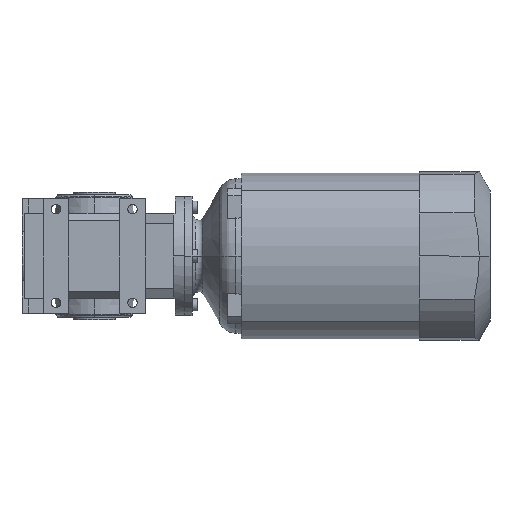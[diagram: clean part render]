
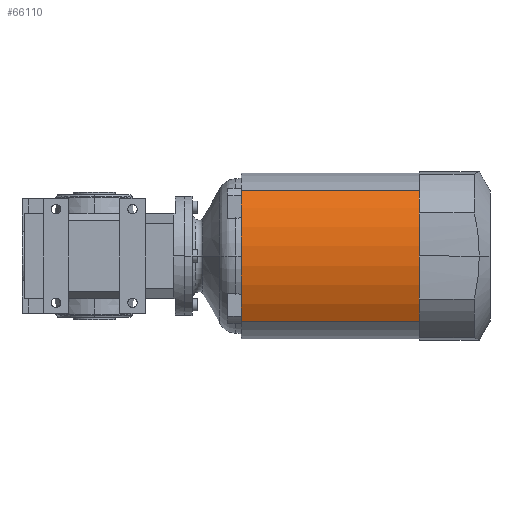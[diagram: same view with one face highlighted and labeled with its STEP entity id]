
A CAD part, front view. The second image highlights one B-rep face of the part: STEP entity #66110.
In plain terms, the highlighted cylindrical face has radius 152 mm (diameter 304 mm), a partial arc.
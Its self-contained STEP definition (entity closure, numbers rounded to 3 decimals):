
#65700=CARTESIAN_POINT('',(179.5,0.,54.));
#65710=DIRECTION('',(-1.,0.,0.));
#65720=DIRECTION('',(0.,0.,1.));
#65730=AXIS2_PLACEMENT_3D('',#65700,#65710,#65720);
#65740=CYLINDRICAL_SURFACE('',#65730,152.);
#65750=CARTESIAN_POINT('',(204.5,0.,54.));
#65760=DIRECTION('',(-1.,0.,0.));
#65770=DIRECTION('',(0.,0.,1.));
#65780=AXIS2_PLACEMENT_3D('',#65750,#65760,#65770);
#65790=CIRCLE('',#65780,152.);
#65800=CARTESIAN_POINT('',(204.5,77.034,-77.034));
#65810=VERTEX_POINT('',#65800);
#65820=CARTESIAN_POINT('',(204.5,-77.034,-77.034));
#65830=VERTEX_POINT('',#65820);
#65840=EDGE_CURVE('',#65810,#65830,#65790,.T.);
#65850=ORIENTED_EDGE('',*,*,#65840,.T.);
#65860=CARTESIAN_POINT('',(179.,77.034,-77.034));
#65870=DIRECTION('',(1.,0.,0.));
#65880=VECTOR('',#65870,1.);
#65890=LINE('',#65860,#65880);
#65900=CARTESIAN_POINT('',(-5.,77.034,-77.034));
#65910=VERTEX_POINT('',#65900);
#65920=EDGE_CURVE('',#65910,#65810,#65890,.T.);
#65930=ORIENTED_EDGE('',*,*,#65920,.T.);
#65940=CARTESIAN_POINT('',(-5.,0.,54.));
#65950=DIRECTION('',(-1.,0.,0.));
#65960=DIRECTION('',(0.,0.,1.));
#65970=AXIS2_PLACEMENT_3D('',#65940,#65950,#65960);
#65980=CIRCLE('',#65970,152.);
#65990=CARTESIAN_POINT('',(-5.,-77.034,-77.034));
#66000=VERTEX_POINT('',#65990);
#66010=EDGE_CURVE('',#65910,#66000,#65980,.T.);
#66020=ORIENTED_EDGE('',*,*,#66010,.F.);
#66030=CARTESIAN_POINT('',(179.5,-77.034,-77.034));
#66040=DIRECTION('',(-1.,0.,0.));
#66050=VECTOR('',#66040,1.);
#66060=LINE('',#66030,#66050);
#66070=EDGE_CURVE('',#65830,#66000,#66060,.T.);
#66080=ORIENTED_EDGE('',*,*,#66070,.T.);
#66090=EDGE_LOOP('',(#66080,#66020,#65930,#65850));
#66100=FACE_OUTER_BOUND('',#66090,.T.);
#66110=ADVANCED_FACE('',(#66100),#65740,.T.);
